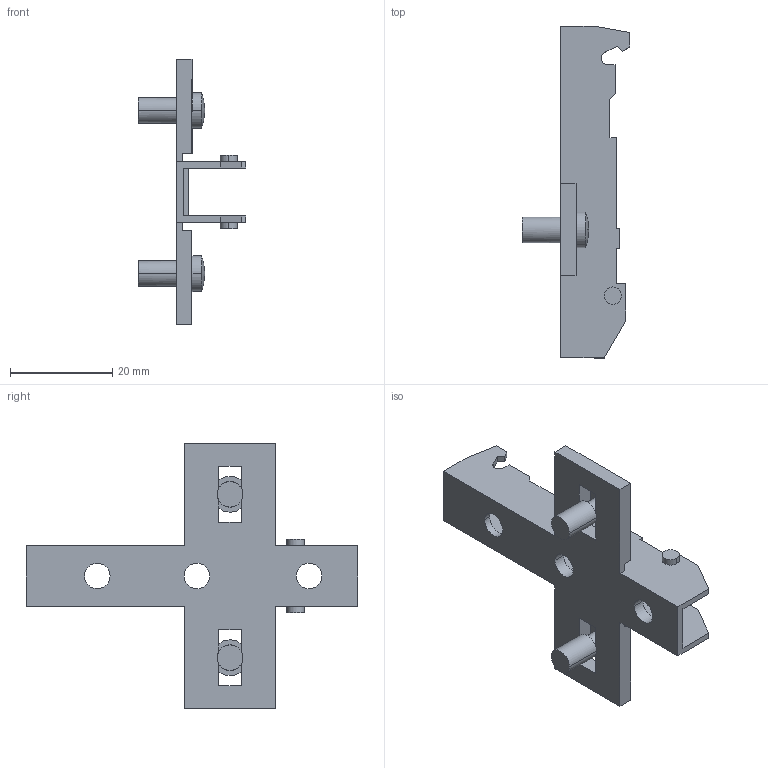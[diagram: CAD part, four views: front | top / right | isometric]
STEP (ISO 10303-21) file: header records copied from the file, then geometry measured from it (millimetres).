
FILE_DESCRIPTION (( 'STEP AP214' ), '1' );
FILE_NAME ('Eco Kreuzmontageplatte LR37_32_Dübel 5mm_kurz_H03.step', '2010-11-18T10:07:16', ( 'grass' ), ( '' ), 'SwSTEP 2.0', 'SolidWorks 2010', '' );
FILE_SCHEMA (( 'AUTOMOTIVE_DESIGN' ));
Length unit declared in the file: millimetre
Products named in the file (1): Eco Kreuzmontageplatte LR37_32_Dübel 5mm_kurz_H03
Bounding box: 21 x 65 x 52 mm (x, y, z)
Volume: 5049.7 mm3; surface area: 6597.7 mm2
Topology: 1 solids, 1 shells, 104 faces, 310 edges, 202 vertices
Faces by surface type: plane 76, cylinder 24, sphere 4
Entity records: 3552 total; most frequent: ORIENTED_EDGE 620, CARTESIAN_POINT 617, DIRECTION 592, EDGE_CURVE 310, VECTOR 238, LINE 238, VERTEX_POINT 202, AXIS2_PLACEMENT_3D 177
